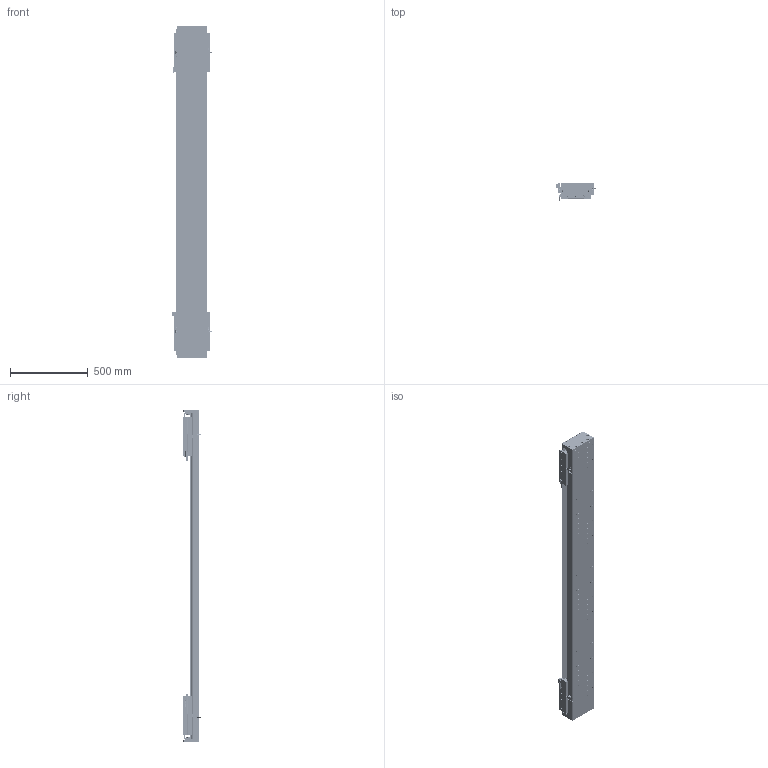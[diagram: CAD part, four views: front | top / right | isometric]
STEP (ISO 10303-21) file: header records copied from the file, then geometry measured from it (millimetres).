
FILE_DESCRIPTION (( 'STEP AP203' ), '1' );
FILE_NAME ('DA-C195-2-C3-T1520-C010-0.2 眻盄萇儂.STEP', '2025-08-15T00:42:09', ( '' ), ( '' ), 'SwSTEP 2.0', 'SolidWorks 2019', '' );
FILE_SCHEMA (( 'CONFIG_CONTROL_DESIGN' ));
Length unit declared in the file: millimetre
Products named in the file (19): CU195-C3賑輸-俋楷; PM-Y65嫖萇羲壽郪璃; DA195詩湍郪璃; DA-C195-GD-DB-H-00 傷啣; MS200 棠掑喜S315-T240; LMT黍杅芛; DKW-KGZ-ZJ-00 中间光电开关支架; IU-CU195-L 菁釱絳寢; DA-C195-2-C3-T1520-C010-0.2 眻盄萇儂; DA95-HXJ-00 遣喳砎蝶; DA195詩湍裔啣; DA165-GYP-00 光电感应片(默认); DA195詩湍菜輸; DA195詩湍嶺輸; DKW168-HXJ-ZJ-00 笢潔滅袉砎蝶; DKW-GYP-ZJ-00 笢潔嫖萇覜茼え; IU-CU195-L-00 菁釱(L2100); PM-T45ㄗ侂狟ㄘ; 葩璃 DA95-GT-T-00
Assembly tree (37 placements, depth 3):
  DA-C195-2-C3-T1520-C010-0.2 眻盄萇儂
    DA195詩湍郪璃
      DA195詩湍菜輸  x2
      DA195詩湍裔啣
      DA195詩湍嶺輸  x2
      DA95-HXJ-00 遣喳砎蝶  x8
      DA-C195-GD-DB-H-00 傷啣  x2
    IU-CU195-L 菁釱絳寢
      IU-CU195-L-00 菁釱(L2100)
      葩璃 DA95-GT-T-00  x4
    LMT黍杅芛  x2
    MS200 棠掑喜S315-T240
    PM-T45ㄗ侂狟ㄘ  x4
    DA165-GYP-00 光电感应片(默认)  x2
    PM-Y65嫖萇羲壽郪璃
    DKW168-HXJ-ZJ-00 笢潔滅袉砎蝶
    DKW-GYP-ZJ-00 笢潔嫖萇覜茼え
    DKW-KGZ-ZJ-00 中间光电开关支架
    CU195-C3賑輸-俋楷  x2
Bounding box: 258.2 x 115.45 x 2140 mm (x, y, z)
Volume: 14603549.4 mm3; surface area: 4131577.9 mm2
Topology: 154 solids, 218 shells, 6701 faces, 17703 edges, 10997 vertices
Faces by surface type: cylinder 3106, plane 2543, cone 884, torus 88, sphere 72, bspline 8
Entity records: 139943 total; most frequent: CARTESIAN_POINT 36133, ORIENTED_EDGE 21422, DIRECTION 20824, EDGE_CURVE 10711, AXIS2_PLACEMENT_3D 7645, VERTEX_POINT 6922, VECTOR 5534, LINE 5534
